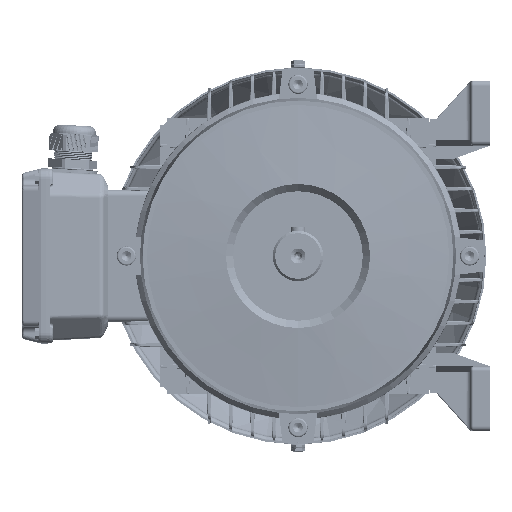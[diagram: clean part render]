
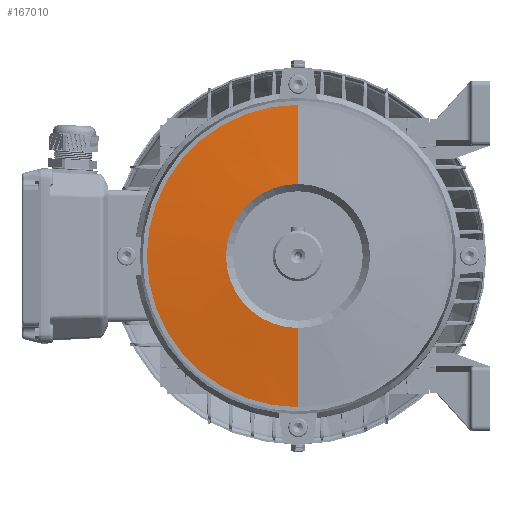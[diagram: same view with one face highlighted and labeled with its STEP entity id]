
A CAD part, left-side view. The second image highlights one B-rep face of the part: STEP entity #167010.
In plain terms, the highlighted conical face has half-angle 85 degrees and reference radius 126 mm.
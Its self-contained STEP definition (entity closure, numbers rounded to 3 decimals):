
#7287 = DIRECTION ( 'NONE',  ( -1., 0., 0. ) ) ;
#7801 = EDGE_CURVE ( 'NONE', #134054, #119906, #225029, .T. ) ;
#15579 = CARTESIAN_POINT ( 'NONE',  ( -9.226, 0., -126. ) ) ;
#19902 = EDGE_CURVE ( 'NONE', #90884, #139654, #170244, .T. ) ;
#28735 = DIRECTION ( 'NONE',  ( 0., 0., -1. ) ) ;
#38828 = LINE ( 'NONE', #182601, #125308 ) ;
#44840 = CARTESIAN_POINT ( 'NONE',  ( -9.226, 0., 0. ) ) ;
#51682 = DIRECTION ( 'NONE',  ( 0.087, 0., -0.996 ) ) ;
#56501 = CARTESIAN_POINT ( 'NONE',  ( -15., 0., -60. ) ) ;
#74681 = AXIS2_PLACEMENT_3D ( 'NONE', #81053, #210222, #228766 ) ;
#81053 = CARTESIAN_POINT ( 'NONE',  ( -15., 0., 0. ) ) ;
#85627 = EDGE_CURVE ( 'NONE', #90884, #134054, #38828, .T. ) ;
#90884 = VERTEX_POINT ( 'NONE', #120091 ) ;
#91741 = ORIENTED_EDGE ( 'NONE', *, *, #228261, .F. ) ;
#99096 = LINE ( 'NONE', #163809, #200096 ) ;
#105904 = DIRECTION ( 'NONE',  ( 0.087, 0., 0.996 ) ) ;
#107046 = ORIENTED_EDGE ( 'NONE', *, *, #85627, .T. ) ;
#108817 = ORIENTED_EDGE ( 'NONE', *, *, #7801, .T. ) ;
#109913 = AXIS2_PLACEMENT_3D ( 'NONE', #209735, #7287, #136168 ) ;
#119906 = VERTEX_POINT ( 'NONE', #15579 ) ;
#120091 = CARTESIAN_POINT ( 'NONE',  ( -15., 0., 60. ) ) ;
#125308 = VECTOR ( 'NONE', #105904, 1000. ) ;
#134054 = VERTEX_POINT ( 'NONE', #219428 ) ;
#136168 = DIRECTION ( 'NONE',  ( 0., 0., 1. ) ) ;
#139654 = VERTEX_POINT ( 'NONE', #56501 ) ;
#148078 = EDGE_LOOP ( 'NONE', ( #238503, #107046, #108817, #91741 ) ) ;
#163809 = CARTESIAN_POINT ( 'NONE',  ( -9.226, 0., -126. ) ) ;
#167010 = ADVANCED_FACE ( 'NONE', ( #228525 ), #217008, .T. ) ;
#170244 = CIRCLE ( 'NONE', #74681, 60. ) ;
#176326 = DIRECTION ( 'NONE',  ( 1., 0., 0. ) ) ;
#182601 = CARTESIAN_POINT ( 'NONE',  ( -9.226, 0., 126. ) ) ;
#200096 = VECTOR ( 'NONE', #51682, 1000. ) ;
#209735 = CARTESIAN_POINT ( 'NONE',  ( -9.226, 0., 0. ) ) ;
#210222 = DIRECTION ( 'NONE',  ( -1., 0., 0. ) ) ;
#217008 = CONICAL_SURFACE ( 'NONE', #221412, 126., 1.484 ) ;
#219428 = CARTESIAN_POINT ( 'NONE',  ( -9.226, 0., 126. ) ) ;
#221412 = AXIS2_PLACEMENT_3D ( 'NONE', #44840, #176326, #28735 ) ;
#225029 = CIRCLE ( 'NONE', #109913, 126. ) ;
#228261 = EDGE_CURVE ( 'NONE', #139654, #119906, #99096, .T. ) ;
#228525 = FACE_OUTER_BOUND ( 'NONE', #148078, .T. ) ;
#228766 = DIRECTION ( 'NONE',  ( 0., 0., 1. ) ) ;
#238503 = ORIENTED_EDGE ( 'NONE', *, *, #19902, .F. ) ;
